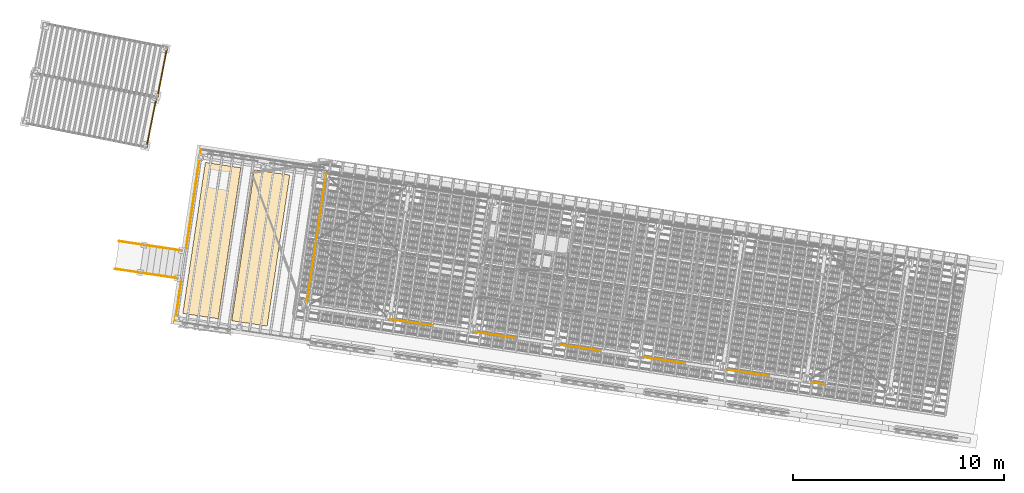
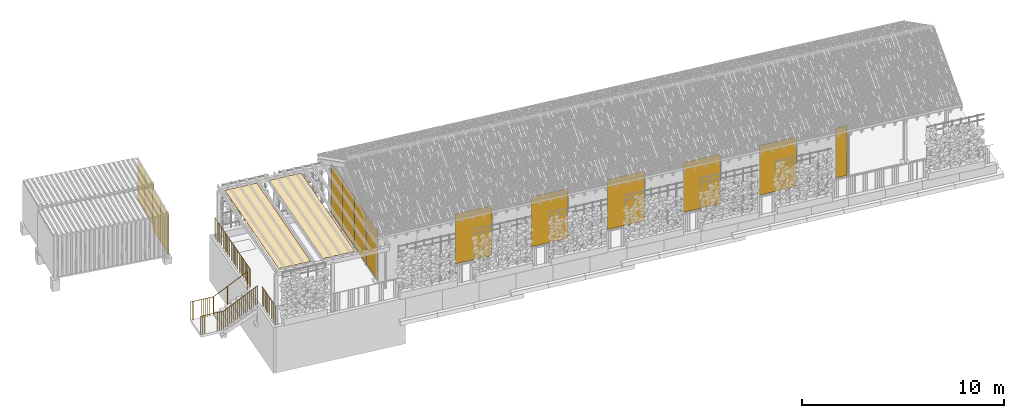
# One storey, part 123 of 128: 11 doors, 6 railings, 3 windows, 2 coverings, 5 elements without a shape of their own.
"""IFC4 building model written with IfcOpenShell, lengths in metres."""

import ifcopenshell
import ifcopenshell.guid

model = None  # the IFC model being written
_history = None  # IfcOwnerHistory: only IFC2X3 demands one
_inside = {}  # id of a spatial element -> (the spatial element, [elements in it])
_under = {}  # id of a project, library or spatial element -> (it, [spatial elements below it])
_declared = {}  # id of a project -> (the project, [libraries it declares])
_typed = {}  # id of a type object -> (the type object, [elements of that type])
_made_of = {}  # id of a material, layer set ... -> (it, [elements and type objects made of it])


def new_model(schema):
    """Start an empty IFC model of exactly this schema.

    Asked for "IFC4X3", IfcOpenShell would pick the latest addendum, in which some entities
    have other attributes; the version numbers below select the first issue.
    IFC2X3 requires an IfcOwnerHistory on every rooted entity: one is made here for all.
    """
    global model, _history
    if schema == "IFC4X3":
        model = ifcopenshell.file(schema_version=(4, 3, 0, 0))
    else:
        model = ifcopenshell.file(schema=schema)
    _inside.clear()
    _under.clear()
    _declared.clear()
    _typed.clear()
    _made_of.clear()
    _history = None
    if model.schema == "IFC2X3":
        org = make("IfcOrganization", Name="unknown")
        user = make(
            "IfcPersonAndOrganization",
            ThePerson=make("IfcPerson", FamilyName="unknown"),
            TheOrganization=org,
        )
        app = make(
            "IfcApplication",
            ApplicationDeveloper=org,
            Version="unknown",
            ApplicationFullName="unknown",
            ApplicationIdentifier="unknown",
        )
        _history = make(
            "IfcOwnerHistory",
            OwningUser=user,
            OwningApplication=app,
            ChangeAction="ADDED",
            CreationDate=0,
        )
    return model


def make(cls, **values):
    """One entity of the class cls with the attributes given. An attribute that is None is left unset."""
    return model.create_entity(
        cls, **{name: value for name, value in values.items() if value is not None}
    )


def rooted(cls, **values):
    """An entity with a GlobalId (a new one), such as an element, a storey or a relation."""
    return make(cls, GlobalId=ifcopenshell.guid.new(), OwnerHistory=_history, **values)


def si_unit(unit_type, name, prefix=None):
    """IfcSIUnit, for example si_unit("LENGTHUNIT", "METRE", prefix="MILLI")."""
    return make("IfcSIUnit", UnitType=unit_type, Prefix=prefix, Name=name)


def assignment(units):
    """IfcUnitAssignment: the units of a project."""
    return None if units is None else make("IfcUnitAssignment", Units=units)


def point(xyz):
    """IfcCartesianPoint."""
    return None if xyz is None else make("IfcCartesianPoint", Coordinates=xyz)


def direction(xyz):
    """IfcDirection."""
    return None if xyz is None else make("IfcDirection", DirectionRatios=xyz)


def frame(location, z_axis=None, x_axis=None):
    """IfcAxis2Placement3D, a coordinate frame: its origin and axes. An axis left out is left unset."""
    return make(
        "IfcAxis2Placement3D",
        Location=point(location),
        Axis=direction(z_axis),
        RefDirection=direction(x_axis),
    )


def origin_with_axes():
    """The frame at (0, 0, 0) with the z axis (0, 0, 1) and the x axis (1, 0, 0) written out."""
    return frame((0.0, 0.0, 0.0), z_axis=(0.0, 0.0, 1.0), x_axis=(1.0, 0.0, 0.0))


def place(relative_to, where):
    """IfcLocalPlacement: puts the frame where relative to a parent placement (None: the world)."""
    return make(
        "IfcLocalPlacement", PlacementRelTo=relative_to, RelativePlacement=where
    )


def context(
    kind, dimensions, precision=None, world=None, true_north=None, identifier=None
):
    """IfcGeometricRepresentationContext, for example the 3D "Model" context."""
    return make(
        "IfcGeometricRepresentationContext",
        ContextIdentifier=identifier,
        ContextType=kind,
        CoordinateSpaceDimension=dimensions,
        Precision=precision,
        WorldCoordinateSystem=world,
        TrueNorth=true_north,
    )


def subcontext(parent, identifier, kind, view, scale=None):
    """IfcGeometricRepresentationSubContext, for example "Body" below "Model"."""
    return make(
        "IfcGeometricRepresentationSubContext",
        ContextIdentifier=identifier,
        ContextType=kind,
        ParentContext=parent,
        TargetScale=scale,
        TargetView=view,
    )


def project(units=None, contexts=None):
    """IfcProject with its units and contexts."""
    return rooted(
        "IfcProject",
        Name="project",
        RepresentationContexts=contexts,
        UnitsInContext=assignment(units),
    )


def spatial(cls, under=None, at=None, **own):
    """A site, building, storey or space (cls), placed at a placement, below another one or the project."""
    s = rooted(cls, ObjectPlacement=at, **own)
    if under is not None:
        _under.setdefault(under.id(), (under, []))[1].append(s)
    return s


def polyline(points):
    """IfcPolyline through the points."""
    return make("IfcPolyline", Points=[point(p) for p in points])


def profile(cls, at=None, kind="AREA", **sizes):
    """A parametric profile (cls). Its sizes go by their IFC names, for example OverallWidth=200.0."""
    return make(cls, ProfileType=kind, Position=at, **sizes)


def circle(**sizes):
    """IfcCircleProfileDef."""
    return profile("IfcCircleProfileDef", **sizes)


def outline(outer, holes=None, kind="AREA"):
    """IfcArbitraryClosedProfileDef: a profile drawn as a closed curve; with holes, ...WithVoids."""
    if holes is None:
        return make("IfcArbitraryClosedProfileDef", ProfileType=kind, OuterCurve=outer)
    return make(
        "IfcArbitraryProfileDefWithVoids",
        ProfileType=kind,
        OuterCurve=outer,
        InnerCurves=holes,
    )


def extrude(swept, where, along, depth):
    """IfcExtrudedAreaSolid: the profile swept, set in the frame where, extruded along a direction by depth."""
    return make(
        "IfcExtrudedAreaSolid",
        SweptArea=swept,
        Position=where,
        ExtrudedDirection=direction(along),
        Depth=depth,
    )


def shape(context_of_items, identifier, shape_type, items):
    """IfcShapeRepresentation: the items that make up one representation, for example the "Body"."""
    return make(
        "IfcShapeRepresentation",
        ContextOfItems=context_of_items,
        RepresentationIdentifier=identifier,
        RepresentationType=shape_type,
        Items=items,
    )


def material(Name=None, Category=None):
    """IfcMaterial."""
    return make("IfcMaterial", Name=Name, Category=Category)


def made_of(thing, what):
    """Note that an element or type object is made of a material, layer set ...; save() writes the relation."""
    if what is not None:
        _made_of.setdefault(what.id(), (what, []))[1].append(thing)
    return thing


def element(
    cls,
    number,
    at=None,
    inside=None,
    cuts=None,
    type_object=None,
    material=None,
    context=None,
    identifier="Body",
    shape_type=None,
    held_by="IfcProductDefinitionShape",
    body=None,
    shapes=None,
    **own,
):
    """One element of the class cls, such as IfcWall. Its Tag is "e" and its number.

    at: its placement. inside: the storey or other place that contains it. cuts: it is an
    opening in that element (IfcRelVoidsElement). A single representation is given by context,
    identifier, shape_type and body (its items); several are given by shapes. held_by: the class
    of the entity that holds the representations. save() writes the other relations.
    """
    e = rooted(cls, Tag="e%d" % number, ObjectPlacement=at, **own)
    if body is not None:
        shapes = [shape(context, identifier, shape_type, body)]
    if shapes is not None:
        e.Representation = make(held_by, Representations=shapes)
    if inside is not None:
        _inside.setdefault(inside.id(), (inside, []))[1].append(e)
    if cuts is not None:
        rooted(
            "IfcRelVoidsElement", RelatingBuildingElement=cuts, RelatedOpeningElement=e
        )
    if type_object is not None:
        _typed.setdefault(type_object.id(), (type_object, []))[1].append(e)
    return made_of(e, material)


def aggregate(whole, parts):
    """IfcRelAggregates: a whole, such as a stair, and the parts it consists of."""
    return rooted("IfcRelAggregates", RelatingObject=whole, RelatedObjects=parts)


def save(model, path):
    """Write the relations noted so far, then the file.

    IfcRelAggregates (storeys below a building ...), IfcRelContainedInSpatialStructure (elements
    in a storey), IfcRelDefinesByType, IfcRelAssociatesMaterial and IfcRelDeclares: one each for
    every whole, place, type object, material and project.
    """
    for whole, parts in _under.values():
        aggregate(whole, parts)
    for where, things in _inside.values():
        rooted(
            "IfcRelContainedInSpatialStructure",
            RelatedElements=things,
            RelatingStructure=where,
        )
    for kind, things in _typed.values():
        rooted("IfcRelDefinesByType", RelatedObjects=things, RelatingType=kind)
    for what, things in _made_of.values():
        rooted("IfcRelAssociatesMaterial", RelatedObjects=things, RelatingMaterial=what)
    for by, libraries in _declared.values():
        rooted("IfcRelDeclares", RelatingContext=by, RelatedDefinitions=libraries)
    model.write(path)


model = new_model("IFC4")

# Units and contexts
model_context = context("Model", 3, precision=1e-05, world=origin_with_axes(), true_north=direction((0.0, 1.0)))
body_context = subcontext(model_context, "Body", "Model", "MODEL_VIEW")
ifc_project = project(units=[si_unit("VOLUMEUNIT", "CUBIC_METRE"), si_unit("LENGTHUNIT", "METRE"), si_unit("AREAUNIT", "SQUARE_METRE")], contexts=[model_context])

# Site, building, storey
site_placement = place(None, origin_with_axes())
site = spatial("IfcSite", under=ifc_project, at=site_placement, Name="Lares · Rua das Mercês · artigo 4771")
building_placement = place(site_placement, frame((15.0, 9.7, 13.9), z_axis=(0.0, 0.0, 1.0), x_axis=(0.989015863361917, -0.147809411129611, 0.0)))
building = spatial("IfcBuilding", under=site, at=building_placement, Name="Casa Sobreposta")
storey_placement = place(building_placement, origin_with_axes())
storey = spatial("IfcBuildingStorey", under=building, at=storey_placement, Name="00 · Habitação e estacionamento", Elevation=13.9)

# Doors
ifc_material_1 = material(Name="Vidro / Normalglas", Category="glass")
door_1_placement = place(storey_placement, frame((0.0, 0.0, 0.025), z_axis=(0.0, 0.0, 1.0), x_axis=(1.0, 0.0, 0.0)))
element("IfcDoor", 1, at=door_1_placement, inside=storey, material=ifc_material_1, Name="Folha de correr sul 2", OperationType="SLIDING_TO_LEFT", OverallHeight=3.0, OverallWidth=1.97133333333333, PredefinedType="DOOR", context=body_context, shape_type="SweptSolid", body=[
    extrude(outline(polyline([(6.039, 0.004), (6.039, -0.004), (4.06766666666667, -0.004), (4.06766666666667, 0.004), (6.039, 0.004)])), origin_with_axes(), (0.0, 0.0, 1.0), 3.0),
])
door_2_placement = place(storey_placement, frame((0.0, 0.0, 0.025), z_axis=(0.0, 0.0, 1.0), x_axis=(1.0, 0.0, 0.0)))
element("IfcDoor", 2, at=door_2_placement, inside=storey, material=ifc_material_1, Name="Folha de correr sul 4", OperationType="SLIDING_TO_LEFT", OverallHeight=3.0, OverallWidth=1.97133333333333, PredefinedType="DOOR", context=body_context, shape_type="SweptSolid", body=[
    extrude(outline(polyline([(10.0816666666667, 0.004), (10.0816666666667, -0.004), (8.11033333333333, -0.004), (8.11033333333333, 0.004), (10.0816666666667, 0.004)])), origin_with_axes(), (0.0, 0.0, 1.0), 3.0),
])
door_3_placement = place(storey_placement, frame((0.0, 0.0, 0.025), z_axis=(0.0, 0.0, 1.0), x_axis=(1.0, 0.0, 0.0)))
element("IfcDoor", 3, at=door_3_placement, inside=storey, material=ifc_material_1, Name="Folha de correr sul 6", OperationType="SLIDING_TO_LEFT", OverallHeight=3.0, OverallWidth=1.97133333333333, PredefinedType="DOOR", context=body_context, shape_type="SweptSolid", body=[
    extrude(outline(polyline([(14.1243333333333, 0.004), (14.1243333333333, -0.004), (12.153, -0.004), (12.153, 0.004), (14.1243333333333, 0.004)])), origin_with_axes(), (0.0, 0.0, 1.0), 3.0),
])
door_4_placement = place(storey_placement, frame((0.0, 0.0, 0.025), z_axis=(0.0, 0.0, 1.0), x_axis=(1.0, 0.0, 0.0)))
element("IfcDoor", 4, at=door_4_placement, inside=storey, material=ifc_material_1, Name="Folha de correr sul 8", OperationType="SLIDING_TO_LEFT", OverallHeight=3.0, OverallWidth=1.97133333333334, PredefinedType="DOOR", context=body_context, shape_type="SweptSolid", body=[
    extrude(outline(polyline([(18.167, 0.004), (18.167, -0.004), (16.1956666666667, -0.004), (16.1956666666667, 0.004), (18.167, 0.004)])), origin_with_axes(), (0.0, 0.0, 1.0), 3.0),
])
door_5_placement = place(storey_placement, frame((0.0, 0.0, 0.025), z_axis=(0.0, 0.0, 1.0), x_axis=(1.0, 0.0, 0.0)))
element("IfcDoor", 5, at=door_5_placement, inside=storey, material=ifc_material_1, Name="Folha de correr sul 10", OperationType="SLIDING_TO_LEFT", OverallHeight=3.0, OverallWidth=1.97133333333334, PredefinedType="DOOR", context=body_context, shape_type="SweptSolid", body=[
    extrude(outline(polyline([(22.2096666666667, 0.004), (22.2096666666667, -0.004), (20.2383333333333, -0.004), (20.2383333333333, 0.004), (22.2096666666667, 0.004)])), origin_with_axes(), (0.0, 0.0, 1.0), 3.0),
])
door_6_placement = place(storey_placement, frame((0.0, 0.0, 0.025), z_axis=(0.0, 0.0, 1.0), x_axis=(1.0, 0.0, 0.0)))
element("IfcDoor", 6, at=door_6_placement, inside=storey, material=ifc_material_1, Name="Folha de correr sul 12", OperationType="SLIDING_TO_LEFT", OverallHeight=3.0, OverallWidth=0.614000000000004, PredefinedType="DOOR", context=body_context, shape_type="SweptSolid", body=[
    extrude(outline(polyline([(24.895, 0.004), (24.895, -0.004), (24.281, -0.004), (24.281, 0.004), (24.895, 0.004)])), origin_with_axes(), (0.0, 0.0, 1.0), 3.0),
])

# Windows
window_1_placement = place(storey_placement, frame((0.0, 0.0, 0.025), z_axis=(0.0, 0.0, 1.0), x_axis=(1.0, 0.0, 0.0)))
element("IfcWindow", 7, at=window_1_placement, inside=storey, material=ifc_material_1, Name="Fachada poente integralmente envidraçada · módulo 1", OverallHeight=3.0, OverallWidth=1.55, PartitioningType="SINGLE_PANEL", PredefinedType="WINDOW", context=body_context, shape_type="SweptSolid", body=[
    extrude(outline(polyline([(-0.004, 1.575), (0.004, 1.575), (0.004, 0.025), (-0.004, 0.025), (-0.004, 1.575)])), origin_with_axes(), (0.0, 0.0, 1.0), 3.0),
])
window_2_placement = place(storey_placement, frame((0.0, 0.0, 0.025), z_axis=(0.0, 0.0, 1.0), x_axis=(1.0, 0.0, 0.0)))
element("IfcWindow", 8, at=window_2_placement, inside=storey, material=ifc_material_1, Name="Fachada poente integralmente envidraçada · módulo 2", OverallHeight=3.0, OverallWidth=1.55, PartitioningType="SINGLE_PANEL", PredefinedType="WINDOW", context=body_context, shape_type="SweptSolid", body=[
    extrude(outline(polyline([(-0.004, 3.175), (0.004, 3.175), (0.004, 1.625), (-0.004, 1.625), (-0.004, 3.175)])), origin_with_axes(), (0.0, 0.0, 1.0), 3.0),
])
window_3_placement = place(storey_placement, frame((0.0, 0.0, 0.025), z_axis=(0.0, 0.0, 1.0), x_axis=(1.0, 0.0, 0.0)))
element("IfcWindow", 9, at=window_3_placement, inside=storey, material=ifc_material_1, Name="Fachada poente integralmente envidraçada · módulo 3", OverallHeight=3.0, OverallWidth=1.55, PartitioningType="SINGLE_PANEL", PredefinedType="WINDOW", context=body_context, shape_type="SweptSolid", body=[
    extrude(outline(polyline([(-0.004, 4.775), (0.004, 4.775), (0.004, 3.225), (-0.004, 3.225), (-0.004, 4.775)])), origin_with_axes(), (0.0, 0.0, 1.0), 3.0),
])

# Door
door_7_placement = place(storey_placement, frame((0.0, 0.0, 0.025), z_axis=(0.0, 0.0, 1.0), x_axis=(1.0, 0.0, 0.0)))
element("IfcDoor", 10, at=door_7_placement, inside=storey, material=ifc_material_1, Name="Fachada poente integralmente envidraçada · módulo 4", OperationType="SLIDING_TO_LEFT", OverallHeight=3.0, OverallWidth=1.55, PredefinedType="DOOR", context=body_context, shape_type="SweptSolid", body=[
    extrude(outline(polyline([(-0.004, 6.375), (0.004, 6.375), (0.004, 4.825), (-0.004, 4.825), (-0.004, 6.375)])), origin_with_axes(), (0.0, 0.0, 1.0), 3.0),
])

# Assembly, doors
assembly_1_placement = place(storey_placement, frame((-14.4335953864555, 9.04888612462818, 0.0), z_axis=(0.0, 0.0, 1.0), x_axis=(0.999032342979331, -0.0439815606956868, 0.0)))
assembly_1 = element("IfcElementAssembly", 11, at=assembly_1_placement, inside=storey, Name="Contentor existente 1 · 6 m", ObjectType="EXISTING_SHIPPING_CONTAINER", PredefinedType="USERDEFINED")
ifc_material_2 = material(Name="Contentor · pintura 1", Category="steel")
door_8_placement = place(assembly_1_placement, frame((0.0, 0.0, -0.163141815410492), z_axis=(0.0, 0.0, 1.0), x_axis=(1.0, 0.0, 0.0)))
door_8 = element("IfcDoor", 12, at=door_8_placement, material=ifc_material_2, Name="Contentor · porta dupla", OperationType="SINGLE_SWING_LEFT", OverallHeight=2.39, OverallWidth=1.17, PredefinedType="DOOR", context=body_context, shape_type="SweptSolid", body=[
    extrude(outline(polyline([(5.955, 1.21), (6.005, 1.21), (6.005, 0.04), (5.955, 0.04), (5.955, 1.21)])), origin_with_axes(), (0.0, 0.0, 1.0), 2.39),
])
door_9_placement = place(assembly_1_placement, frame((0.0, 0.0, -0.163141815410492), z_axis=(0.0, 0.0, 1.0), x_axis=(1.0, 0.0, 0.0)))
door_9 = element("IfcDoor", 13, at=door_9_placement, material=ifc_material_2, Name="Contentor · porta dupla", OperationType="SINGLE_SWING_LEFT", OverallHeight=2.39, OverallWidth=1.17, PredefinedType="DOOR", context=body_context, shape_type="SweptSolid", body=[
    extrude(outline(polyline([(5.955, 2.39), (6.005, 2.39), (6.005, 1.22), (5.955, 1.22), (5.955, 2.39)])), origin_with_axes(), (0.0, 0.0, 1.0), 2.39),
])
aggregate(assembly_1, [door_8, door_9])

assembly_2_placement = place(storey_placement, frame((-14.5932944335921, 6.63122214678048, 0.0), z_axis=(0.0, 0.0, 1.0), x_axis=(0.998832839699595, -0.0483007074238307, 0.0)))
assembly_2 = element("IfcElementAssembly", 14, at=assembly_2_placement, inside=storey, Name="Contentor existente 2 · 6 m", ObjectType="EXISTING_SHIPPING_CONTAINER", PredefinedType="USERDEFINED")
ifc_material_3 = material(Name="Contentor · pintura 2", Category="steel")
door_10_placement = place(assembly_2_placement, frame((0.0, 0.0, -0.318751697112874), z_axis=(0.0, 0.0, 1.0), x_axis=(1.0, 0.0, 0.0)))
door_10 = element("IfcDoor", 15, at=door_10_placement, material=ifc_material_3, Name="Contentor · porta dupla", OperationType="SINGLE_SWING_LEFT", OverallHeight=2.39, OverallWidth=1.17, PredefinedType="DOOR", context=body_context, shape_type="SweptSolid", body=[
    extrude(outline(polyline([(5.955, 1.21), (6.005, 1.21), (6.005, 0.04), (5.955, 0.04), (5.955, 1.21)])), origin_with_axes(), (0.0, 0.0, 1.0), 2.39),
])
door_11_placement = place(assembly_2_placement, frame((0.0, 0.0, -0.318751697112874), z_axis=(0.0, 0.0, 1.0), x_axis=(1.0, 0.0, 0.0)))
door_11 = element("IfcDoor", 16, at=door_11_placement, material=ifc_material_3, Name="Contentor · porta dupla", OperationType="SINGLE_SWING_LEFT", OverallHeight=2.39, OverallWidth=1.17, PredefinedType="DOOR", context=body_context, shape_type="SweptSolid", body=[
    extrude(outline(polyline([(5.955, 2.39), (6.005, 2.39), (6.005, 1.22), (5.955, 1.22), (5.955, 2.39)])), origin_with_axes(), (0.0, 0.0, 1.0), 2.39),
])
aggregate(assembly_2, [door_10, door_11])

# Assembly, railings
assembly_3_placement = place(storey_placement, origin_with_axes())
assembly_3 = element("IfcElementAssembly", 17, at=assembly_3_placement, inside=storey, Name="Pódio · terraço, casa térrea e cisterna", ObjectType="CISTERN_PODIUM", PredefinedType="USERDEFINED")
ifc_material_4 = material(Name="Aço pintado / Stahl lackiert", Category="steel")
railing_1_placement = place(assembly_3_placement, origin_with_axes())
railing_1 = element("IfcRailing", 18, at=railing_1_placement, material=ifc_material_4, Name="Pódio · guarda poente sul", PredefinedType="GUARDRAIL", context=body_context, shape_type="SweptSolid", body=[
    extrude(circle(Radius=0.015), frame((-6.05, -1.55, 1.06), z_axis=(0.0, 1.0, 0.0), x_axis=(1.0, 0.0, 0.0)), (0.0, 0.0, 1.0), 1.85),
    extrude(circle(Radius=0.0175), frame((-6.05, -1.55, -0.04), z_axis=(0.0, 0.0, 1.0), x_axis=(1.0, 0.0, 0.0)), (0.0, 0.0, 1.0), 1.1),
    extrude(circle(Radius=0.006), frame((-6.05, -1.44117647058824, -0.04), z_axis=(0.0, 0.0, 1.0), x_axis=(1.0, 0.0, 0.0)), (0.0, 0.0, 1.0), 1.1),
    extrude(circle(Radius=0.006), frame((-6.05, -1.33235294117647, -0.04), z_axis=(0.0, 0.0, 1.0), x_axis=(1.0, 0.0, 0.0)), (0.0, 0.0, 1.0), 1.1),
    extrude(circle(Radius=0.006), frame((-6.05, -1.22352941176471, -0.04), z_axis=(0.0, 0.0, 1.0), x_axis=(1.0, 0.0, 0.0)), (0.0, 0.0, 1.0), 1.1),
    extrude(circle(Radius=0.006), frame((-6.05, -1.11470588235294, -0.04), z_axis=(0.0, 0.0, 1.0), x_axis=(1.0, 0.0, 0.0)), (0.0, 0.0, 1.0), 1.1),
    extrude(circle(Radius=0.006), frame((-6.05, -1.00588235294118, -0.04), z_axis=(0.0, 0.0, 1.0), x_axis=(1.0, 0.0, 0.0)), (0.0, 0.0, 1.0), 1.1),
    extrude(circle(Radius=0.006), frame((-6.05, -0.897058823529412, -0.04), z_axis=(0.0, 0.0, 1.0), x_axis=(1.0, 0.0, 0.0)), (0.0, 0.0, 1.0), 1.1),
    extrude(circle(Radius=0.006), frame((-6.05, -0.788235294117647, -0.04), z_axis=(0.0, 0.0, 1.0), x_axis=(1.0, 0.0, 0.0)), (0.0, 0.0, 1.0), 1.1),
    extrude(circle(Radius=0.006), frame((-6.05, -0.679411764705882, -0.04), z_axis=(0.0, 0.0, 1.0), x_axis=(1.0, 0.0, 0.0)), (0.0, 0.0, 1.0), 1.1),
    extrude(circle(Radius=0.006), frame((-6.05, -0.570588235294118, -0.04), z_axis=(0.0, 0.0, 1.0), x_axis=(1.0, 0.0, 0.0)), (0.0, 0.0, 1.0), 1.1),
    extrude(circle(Radius=0.0175), frame((-6.05, -0.461764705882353, -0.04), z_axis=(0.0, 0.0, 1.0), x_axis=(1.0, 0.0, 0.0)), (0.0, 0.0, 1.0), 1.1),
    extrude(circle(Radius=0.006), frame((-6.05, -0.352941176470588, -0.04), z_axis=(0.0, 0.0, 1.0), x_axis=(1.0, 0.0, 0.0)), (0.0, 0.0, 1.0), 1.1),
    extrude(circle(Radius=0.006), frame((-6.05, -0.244117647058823, -0.04), z_axis=(0.0, 0.0, 1.0), x_axis=(1.0, 0.0, 0.0)), (0.0, 0.0, 1.0), 1.1),
    extrude(circle(Radius=0.006), frame((-6.05, -0.135294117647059, -0.04), z_axis=(0.0, 0.0, 1.0), x_axis=(1.0, 0.0, 0.0)), (0.0, 0.0, 1.0), 1.1),
    extrude(circle(Radius=0.006), frame((-6.05, -0.0264705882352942, -0.04), z_axis=(0.0, 0.0, 1.0), x_axis=(1.0, 0.0, 0.0)), (0.0, 0.0, 1.0), 1.1),
    extrude(circle(Radius=0.006), frame((-6.05, 0.0823529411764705, -0.04), z_axis=(0.0, 0.0, 1.0), x_axis=(1.0, 0.0, 0.0)), (0.0, 0.0, 1.0), 1.1),
    extrude(circle(Radius=0.006), frame((-6.05, 0.191176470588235, -0.04), z_axis=(0.0, 0.0, 1.0), x_axis=(1.0, 0.0, 0.0)), (0.0, 0.0, 1.0), 1.1),
    extrude(circle(Radius=0.006), frame((-6.05, 0.3, -0.04), z_axis=(0.0, 0.0, 1.0), x_axis=(1.0, 0.0, 0.0)), (0.0, 0.0, 1.0), 1.1),
])
railing_2_placement = place(assembly_3_placement, origin_with_axes())
railing_2 = element("IfcRailing", 19, at=railing_2_placement, material=ifc_material_4, Name="Pódio · guarda poente norte", PredefinedType="GUARDRAIL", context=body_context, shape_type="SweptSolid", body=[
    extrude(circle(Radius=0.015), frame((-6.05, 1.9, 1.06), z_axis=(0.0, 1.0, 0.0), x_axis=(1.0, 0.0, 0.0)), (0.0, 0.0, 1.0), 4.75),
    extrude(circle(Radius=0.0175), frame((-6.05, 1.9, -0.04), z_axis=(0.0, 0.0, 1.0), x_axis=(1.0, 0.0, 0.0)), (0.0, 0.0, 1.0), 1.1),
    extrude(circle(Radius=0.006), frame((-6.05, 2.00795454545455, -0.04), z_axis=(0.0, 0.0, 1.0), x_axis=(1.0, 0.0, 0.0)), (0.0, 0.0, 1.0), 1.1),
    extrude(circle(Radius=0.006), frame((-6.05, 2.11590909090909, -0.04), z_axis=(0.0, 0.0, 1.0), x_axis=(1.0, 0.0, 0.0)), (0.0, 0.0, 1.0), 1.1),
    extrude(circle(Radius=0.006), frame((-6.05, 2.22386363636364, -0.04), z_axis=(0.0, 0.0, 1.0), x_axis=(1.0, 0.0, 0.0)), (0.0, 0.0, 1.0), 1.1),
    extrude(circle(Radius=0.006), frame((-6.05, 2.33181818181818, -0.04), z_axis=(0.0, 0.0, 1.0), x_axis=(1.0, 0.0, 0.0)), (0.0, 0.0, 1.0), 1.1),
    extrude(circle(Radius=0.006), frame((-6.05, 2.43977272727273, -0.04), z_axis=(0.0, 0.0, 1.0), x_axis=(1.0, 0.0, 0.0)), (0.0, 0.0, 1.0), 1.1),
    extrude(circle(Radius=0.006), frame((-6.05, 2.54772727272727, -0.04), z_axis=(0.0, 0.0, 1.0), x_axis=(1.0, 0.0, 0.0)), (0.0, 0.0, 1.0), 1.1),
    extrude(circle(Radius=0.006), frame((-6.05, 2.65568181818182, -0.04), z_axis=(0.0, 0.0, 1.0), x_axis=(1.0, 0.0, 0.0)), (0.0, 0.0, 1.0), 1.1),
    extrude(circle(Radius=0.006), frame((-6.05, 2.76363636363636, -0.04), z_axis=(0.0, 0.0, 1.0), x_axis=(1.0, 0.0, 0.0)), (0.0, 0.0, 1.0), 1.1),
    extrude(circle(Radius=0.006), frame((-6.05, 2.87159090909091, -0.04), z_axis=(0.0, 0.0, 1.0), x_axis=(1.0, 0.0, 0.0)), (0.0, 0.0, 1.0), 1.1),
    extrude(circle(Radius=0.0175), frame((-6.05, 2.97954545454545, -0.04), z_axis=(0.0, 0.0, 1.0), x_axis=(1.0, 0.0, 0.0)), (0.0, 0.0, 1.0), 1.1),
    extrude(circle(Radius=0.006), frame((-6.05, 3.0875, -0.04), z_axis=(0.0, 0.0, 1.0), x_axis=(1.0, 0.0, 0.0)), (0.0, 0.0, 1.0), 1.1),
    extrude(circle(Radius=0.006), frame((-6.05, 3.19545454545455, -0.04), z_axis=(0.0, 0.0, 1.0), x_axis=(1.0, 0.0, 0.0)), (0.0, 0.0, 1.0), 1.1),
    extrude(circle(Radius=0.006), frame((-6.05, 3.30340909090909, -0.04), z_axis=(0.0, 0.0, 1.0), x_axis=(1.0, 0.0, 0.0)), (0.0, 0.0, 1.0), 1.1),
    extrude(circle(Radius=0.006), frame((-6.05, 3.41136363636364, -0.04), z_axis=(0.0, 0.0, 1.0), x_axis=(1.0, 0.0, 0.0)), (0.0, 0.0, 1.0), 1.1),
    extrude(circle(Radius=0.006), frame((-6.05, 3.51931818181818, -0.04), z_axis=(0.0, 0.0, 1.0), x_axis=(1.0, 0.0, 0.0)), (0.0, 0.0, 1.0), 1.1),
    extrude(circle(Radius=0.006), frame((-6.05, 3.62727272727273, -0.04), z_axis=(0.0, 0.0, 1.0), x_axis=(1.0, 0.0, 0.0)), (0.0, 0.0, 1.0), 1.1),
    extrude(circle(Radius=0.006), frame((-6.05, 3.73522727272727, -0.04), z_axis=(0.0, 0.0, 1.0), x_axis=(1.0, 0.0, 0.0)), (0.0, 0.0, 1.0), 1.1),
    extrude(circle(Radius=0.006), frame((-6.05, 3.84318181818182, -0.04), z_axis=(0.0, 0.0, 1.0), x_axis=(1.0, 0.0, 0.0)), (0.0, 0.0, 1.0), 1.1),
    extrude(circle(Radius=0.006), frame((-6.05, 3.95113636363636, -0.04), z_axis=(0.0, 0.0, 1.0), x_axis=(1.0, 0.0, 0.0)), (0.0, 0.0, 1.0), 1.1),
    extrude(circle(Radius=0.0175), frame((-6.05, 4.05909090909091, -0.04), z_axis=(0.0, 0.0, 1.0), x_axis=(1.0, 0.0, 0.0)), (0.0, 0.0, 1.0), 1.1),
    extrude(circle(Radius=0.006), frame((-6.05, 4.16704545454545, -0.04), z_axis=(0.0, 0.0, 1.0), x_axis=(1.0, 0.0, 0.0)), (0.0, 0.0, 1.0), 1.1),
    extrude(circle(Radius=0.006), frame((-6.05, 4.275, -0.04), z_axis=(0.0, 0.0, 1.0), x_axis=(1.0, 0.0, 0.0)), (0.0, 0.0, 1.0), 1.1),
    extrude(circle(Radius=0.006), frame((-6.05, 4.38295454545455, -0.04), z_axis=(0.0, 0.0, 1.0), x_axis=(1.0, 0.0, 0.0)), (0.0, 0.0, 1.0), 1.1),
    extrude(circle(Radius=0.006), frame((-6.05, 4.49090909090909, -0.04), z_axis=(0.0, 0.0, 1.0), x_axis=(1.0, 0.0, 0.0)), (0.0, 0.0, 1.0), 1.1),
    extrude(circle(Radius=0.006), frame((-6.05, 4.59886363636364, -0.04), z_axis=(0.0, 0.0, 1.0), x_axis=(1.0, 0.0, 0.0)), (0.0, 0.0, 1.0), 1.1),
    extrude(circle(Radius=0.006), frame((-6.05, 4.70681818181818, -0.04), z_axis=(0.0, 0.0, 1.0), x_axis=(1.0, 0.0, 0.0)), (0.0, 0.0, 1.0), 1.1),
    extrude(circle(Radius=0.006), frame((-6.05, 4.81477272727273, -0.04), z_axis=(0.0, 0.0, 1.0), x_axis=(1.0, 0.0, 0.0)), (0.0, 0.0, 1.0), 1.1),
    extrude(circle(Radius=0.006), frame((-6.05, 4.92272727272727, -0.04), z_axis=(0.0, 0.0, 1.0), x_axis=(1.0, 0.0, 0.0)), (0.0, 0.0, 1.0), 1.1),
    extrude(circle(Radius=0.006), frame((-6.05, 5.03068181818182, -0.04), z_axis=(0.0, 0.0, 1.0), x_axis=(1.0, 0.0, 0.0)), (0.0, 0.0, 1.0), 1.1),
    extrude(circle(Radius=0.0175), frame((-6.05, 5.13863636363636, -0.04), z_axis=(0.0, 0.0, 1.0), x_axis=(1.0, 0.0, 0.0)), (0.0, 0.0, 1.0), 1.1),
    extrude(circle(Radius=0.006), frame((-6.05, 5.24659090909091, -0.04), z_axis=(0.0, 0.0, 1.0), x_axis=(1.0, 0.0, 0.0)), (0.0, 0.0, 1.0), 1.1),
    extrude(circle(Radius=0.006), frame((-6.05, 5.35454545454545, -0.04), z_axis=(0.0, 0.0, 1.0), x_axis=(1.0, 0.0, 0.0)), (0.0, 0.0, 1.0), 1.1),
    extrude(circle(Radius=0.006), frame((-6.05, 5.4625, -0.04), z_axis=(0.0, 0.0, 1.0), x_axis=(1.0, 0.0, 0.0)), (0.0, 0.0, 1.0), 1.1),
    extrude(circle(Radius=0.006), frame((-6.05, 5.57045454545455, -0.04), z_axis=(0.0, 0.0, 1.0), x_axis=(1.0, 0.0, 0.0)), (0.0, 0.0, 1.0), 1.1),
    extrude(circle(Radius=0.006), frame((-6.05, 5.67840909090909, -0.04), z_axis=(0.0, 0.0, 1.0), x_axis=(1.0, 0.0, 0.0)), (0.0, 0.0, 1.0), 1.1),
    extrude(circle(Radius=0.006), frame((-6.05, 5.78636363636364, -0.04), z_axis=(0.0, 0.0, 1.0), x_axis=(1.0, 0.0, 0.0)), (0.0, 0.0, 1.0), 1.1),
    extrude(circle(Radius=0.006), frame((-6.05, 5.89431818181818, -0.04), z_axis=(0.0, 0.0, 1.0), x_axis=(1.0, 0.0, 0.0)), (0.0, 0.0, 1.0), 1.1),
    extrude(circle(Radius=0.006), frame((-6.05, 6.00227272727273, -0.04), z_axis=(0.0, 0.0, 1.0), x_axis=(1.0, 0.0, 0.0)), (0.0, 0.0, 1.0), 1.1),
    extrude(circle(Radius=0.006), frame((-6.05, 6.11022727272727, -0.04), z_axis=(0.0, 0.0, 1.0), x_axis=(1.0, 0.0, 0.0)), (0.0, 0.0, 1.0), 1.1),
    extrude(circle(Radius=0.0175), frame((-6.05, 6.21818181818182, -0.04), z_axis=(0.0, 0.0, 1.0), x_axis=(1.0, 0.0, 0.0)), (0.0, 0.0, 1.0), 1.1),
    extrude(circle(Radius=0.006), frame((-6.05, 6.32613636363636, -0.04), z_axis=(0.0, 0.0, 1.0), x_axis=(1.0, 0.0, 0.0)), (0.0, 0.0, 1.0), 1.1),
    extrude(circle(Radius=0.006), frame((-6.05, 6.43409090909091, -0.04), z_axis=(0.0, 0.0, 1.0), x_axis=(1.0, 0.0, 0.0)), (0.0, 0.0, 1.0), 1.1),
    extrude(circle(Radius=0.006), frame((-6.05, 6.54204545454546, -0.04), z_axis=(0.0, 0.0, 1.0), x_axis=(1.0, 0.0, 0.0)), (0.0, 0.0, 1.0), 1.1),
    extrude(circle(Radius=0.006), frame((-6.05, 6.65, -0.04), z_axis=(0.0, 0.0, 1.0), x_axis=(1.0, 0.0, 0.0)), (0.0, 0.0, 1.0), 1.1),
])
aggregate(assembly_3, [railing_1, railing_2])

# Stair, railings
stair_placement = place(storey_placement, origin_with_axes())
stair = element("IfcStair", 20, at=stair_placement, inside=storey, Name="Jardim · escada pela fachada poente", PredefinedType="STRAIGHT_RUN_STAIR")
railing_3_placement = place(stair_placement, origin_with_axes())
railing_3 = element("IfcRailing", 21, at=railing_3_placement, material=ifc_material_4, Name="Jardim · corrimão poente", PredefinedType="GUARDRAIL", context=body_context, shape_type="SweptSolid", body=[
    extrude(circle(Radius=0.015), frame((-6.25, 0.435, 1.06), z_axis=(-0.861687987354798, 0.0, -0.50743848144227), x_axis=(0.0, 1.0, 0.0)), (0.0, 0.0, 1.0), 2.08892316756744),
    extrude(circle(Radius=0.0175), frame((-6.25, 0.435, -0.04), z_axis=(0.0, 0.0, 1.0), x_axis=(1.0, 0.0, 0.0)), (0.0, 0.0, 1.0), 1.1),
    extrude(circle(Radius=0.006), frame((-6.35588235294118, 0.435, -0.102352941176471), z_axis=(0.0, 0.0, 1.0), x_axis=(1.0, 0.0, 0.0)), (0.0, 0.0, 1.0), 1.1),
    extrude(circle(Radius=0.006), frame((-6.46176470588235, 0.435, -0.164705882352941), z_axis=(0.0, 0.0, 1.0), x_axis=(1.0, 0.0, 0.0)), (0.0, 0.0, 1.0), 1.1),
    extrude(circle(Radius=0.006), frame((-6.56764705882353, 0.435, -0.227058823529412), z_axis=(0.0, 0.0, 1.0), x_axis=(1.0, 0.0, 0.0)), (0.0, 0.0, 1.0), 1.1),
    extrude(circle(Radius=0.006), frame((-6.67352941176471, 0.435, -0.289411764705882), z_axis=(0.0, 0.0, 1.0), x_axis=(1.0, 0.0, 0.0)), (0.0, 0.0, 1.0), 1.1),
    extrude(circle(Radius=0.006), frame((-6.77941176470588, 0.435, -0.351764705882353), z_axis=(0.0, 0.0, 1.0), x_axis=(1.0, 0.0, 0.0)), (0.0, 0.0, 1.0), 1.1),
    extrude(circle(Radius=0.006), frame((-6.88529411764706, 0.435, -0.414117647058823), z_axis=(0.0, 0.0, 1.0), x_axis=(1.0, 0.0, 0.0)), (0.0, 0.0, 1.0), 1.1),
    extrude(circle(Radius=0.006), frame((-6.99117647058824, 0.435, -0.476470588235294), z_axis=(0.0, 0.0, 1.0), x_axis=(1.0, 0.0, 0.0)), (0.0, 0.0, 1.0), 1.1),
    extrude(circle(Radius=0.006), frame((-7.09705882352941, 0.435, -0.538823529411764), z_axis=(0.0, 0.0, 1.0), x_axis=(1.0, 0.0, 0.0)), (0.0, 0.0, 1.0), 1.1),
    extrude(circle(Radius=0.006), frame((-7.20294117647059, 0.435, -0.601176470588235), z_axis=(0.0, 0.0, 1.0), x_axis=(1.0, 0.0, 0.0)), (0.0, 0.0, 1.0), 1.1),
    extrude(circle(Radius=0.0175), frame((-7.30882352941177, 0.435, -0.663529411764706), z_axis=(0.0, 0.0, 1.0), x_axis=(1.0, 0.0, 0.0)), (0.0, 0.0, 1.0), 1.1),
    extrude(circle(Radius=0.006), frame((-7.41470588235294, 0.435, -0.725882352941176), z_axis=(0.0, 0.0, 1.0), x_axis=(1.0, 0.0, 0.0)), (0.0, 0.0, 1.0), 1.1),
    extrude(circle(Radius=0.006), frame((-7.52058823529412, 0.435, -0.788235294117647), z_axis=(0.0, 0.0, 1.0), x_axis=(1.0, 0.0, 0.0)), (0.0, 0.0, 1.0), 1.1),
    extrude(circle(Radius=0.006), frame((-7.62647058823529, 0.435, -0.850588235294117), z_axis=(0.0, 0.0, 1.0), x_axis=(1.0, 0.0, 0.0)), (0.0, 0.0, 1.0), 1.1),
    extrude(circle(Radius=0.006), frame((-7.73235294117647, 0.435, -0.912941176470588), z_axis=(0.0, 0.0, 1.0), x_axis=(1.0, 0.0, 0.0)), (0.0, 0.0, 1.0), 1.1),
    extrude(circle(Radius=0.006), frame((-7.83823529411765, 0.435, -0.975294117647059), z_axis=(0.0, 0.0, 1.0), x_axis=(1.0, 0.0, 0.0)), (0.0, 0.0, 1.0), 1.1),
    extrude(circle(Radius=0.006), frame((-7.94411764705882, 0.435, -1.03764705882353), z_axis=(0.0, 0.0, 1.0), x_axis=(1.0, 0.0, 0.0)), (0.0, 0.0, 1.0), 1.1),
    extrude(circle(Radius=0.006), frame((-8.05, 0.435, -1.1), z_axis=(0.0, 0.0, 1.0), x_axis=(1.0, 0.0, 0.0)), (0.0, 0.0, 1.0), 1.1),
])
railing_4_placement = place(stair_placement, origin_with_axes())
railing_4 = element("IfcRailing", 22, at=railing_4_placement, material=ifc_material_4, Name="Jardim · guarda do patamar", PredefinedType="GUARDRAIL", context=body_context, shape_type="SweptSolid", body=[
    extrude(circle(Radius=0.015), frame((-8.05, 0.435, 4.44089209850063e-16), z_axis=(-1.0, 0.0, 0.0), x_axis=(0.0, 1.0, 0.0)), (0.0, 0.0, 1.0), 1.2),
    extrude(circle(Radius=0.0175), frame((-8.05, 0.435, -1.1), z_axis=(0.0, 0.0, 1.0), x_axis=(1.0, 0.0, 0.0)), (0.0, 0.0, 1.0), 1.1),
    extrude(circle(Radius=0.006), frame((-8.15909090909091, 0.435, -1.1), z_axis=(0.0, 0.0, 1.0), x_axis=(1.0, 0.0, 0.0)), (0.0, 0.0, 1.0), 1.1),
    extrude(circle(Radius=0.006), frame((-8.26818181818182, 0.435, -1.1), z_axis=(0.0, 0.0, 1.0), x_axis=(1.0, 0.0, 0.0)), (0.0, 0.0, 1.0), 1.1),
    extrude(circle(Radius=0.006), frame((-8.37727272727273, 0.435, -1.1), z_axis=(0.0, 0.0, 1.0), x_axis=(1.0, 0.0, 0.0)), (0.0, 0.0, 1.0), 1.1),
    extrude(circle(Radius=0.006), frame((-8.48636363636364, 0.435, -1.1), z_axis=(0.0, 0.0, 1.0), x_axis=(1.0, 0.0, 0.0)), (0.0, 0.0, 1.0), 1.1),
    extrude(circle(Radius=0.006), frame((-8.59545454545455, 0.435, -1.1), z_axis=(0.0, 0.0, 1.0), x_axis=(1.0, 0.0, 0.0)), (0.0, 0.0, 1.0), 1.1),
    extrude(circle(Radius=0.006), frame((-8.70454545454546, 0.435, -1.1), z_axis=(0.0, 0.0, 1.0), x_axis=(1.0, 0.0, 0.0)), (0.0, 0.0, 1.0), 1.1),
    extrude(circle(Radius=0.006), frame((-8.81363636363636, 0.435, -1.1), z_axis=(0.0, 0.0, 1.0), x_axis=(1.0, 0.0, 0.0)), (0.0, 0.0, 1.0), 1.1),
    extrude(circle(Radius=0.006), frame((-8.92272727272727, 0.435, -1.1), z_axis=(0.0, 0.0, 1.0), x_axis=(1.0, 0.0, 0.0)), (0.0, 0.0, 1.0), 1.1),
    extrude(circle(Radius=0.006), frame((-9.03181818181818, 0.435, -1.1), z_axis=(0.0, 0.0, 1.0), x_axis=(1.0, 0.0, 0.0)), (0.0, 0.0, 1.0), 1.1),
    extrude(circle(Radius=0.0175), frame((-9.14090909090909, 0.435, -1.1), z_axis=(0.0, 0.0, 1.0), x_axis=(1.0, 0.0, 0.0)), (0.0, 0.0, 1.0), 1.1),
    extrude(circle(Radius=0.006), frame((-9.25, 0.435, -1.1), z_axis=(0.0, 0.0, 1.0), x_axis=(1.0, 0.0, 0.0)), (0.0, 0.0, 1.0), 1.1),
])
railing_5_placement = place(stair_placement, origin_with_axes())
railing_5 = element("IfcRailing", 23, at=railing_5_placement, material=ifc_material_4, Name="Jardim · corrimão poente", PredefinedType="GUARDRAIL", context=body_context, shape_type="SweptSolid", body=[
    extrude(circle(Radius=0.015), frame((-6.25, 1.765, 1.06), z_axis=(-0.861687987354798, 0.0, -0.50743848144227), x_axis=(0.0, 1.0, 0.0)), (0.0, 0.0, 1.0), 2.08892316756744),
    extrude(circle(Radius=0.0175), frame((-6.25, 1.765, -0.04), z_axis=(0.0, 0.0, 1.0), x_axis=(1.0, 0.0, 0.0)), (0.0, 0.0, 1.0), 1.1),
    extrude(circle(Radius=0.006), frame((-6.35588235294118, 1.765, -0.102352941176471), z_axis=(0.0, 0.0, 1.0), x_axis=(1.0, 0.0, 0.0)), (0.0, 0.0, 1.0), 1.1),
    extrude(circle(Radius=0.006), frame((-6.46176470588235, 1.765, -0.164705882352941), z_axis=(0.0, 0.0, 1.0), x_axis=(1.0, 0.0, 0.0)), (0.0, 0.0, 1.0), 1.1),
    extrude(circle(Radius=0.006), frame((-6.56764705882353, 1.765, -0.227058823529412), z_axis=(0.0, 0.0, 1.0), x_axis=(1.0, 0.0, 0.0)), (0.0, 0.0, 1.0), 1.1),
    extrude(circle(Radius=0.006), frame((-6.67352941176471, 1.765, -0.289411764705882), z_axis=(0.0, 0.0, 1.0), x_axis=(1.0, 0.0, 0.0)), (0.0, 0.0, 1.0), 1.1),
    extrude(circle(Radius=0.006), frame((-6.77941176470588, 1.765, -0.351764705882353), z_axis=(0.0, 0.0, 1.0), x_axis=(1.0, 0.0, 0.0)), (0.0, 0.0, 1.0), 1.1),
    extrude(circle(Radius=0.006), frame((-6.88529411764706, 1.765, -0.414117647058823), z_axis=(0.0, 0.0, 1.0), x_axis=(1.0, 0.0, 0.0)), (0.0, 0.0, 1.0), 1.1),
    extrude(circle(Radius=0.006), frame((-6.99117647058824, 1.765, -0.476470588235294), z_axis=(0.0, 0.0, 1.0), x_axis=(1.0, 0.0, 0.0)), (0.0, 0.0, 1.0), 1.1),
    extrude(circle(Radius=0.006), frame((-7.09705882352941, 1.765, -0.538823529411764), z_axis=(0.0, 0.0, 1.0), x_axis=(1.0, 0.0, 0.0)), (0.0, 0.0, 1.0), 1.1),
    extrude(circle(Radius=0.006), frame((-7.20294117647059, 1.765, -0.601176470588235), z_axis=(0.0, 0.0, 1.0), x_axis=(1.0, 0.0, 0.0)), (0.0, 0.0, 1.0), 1.1),
    extrude(circle(Radius=0.0175), frame((-7.30882352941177, 1.765, -0.663529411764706), z_axis=(0.0, 0.0, 1.0), x_axis=(1.0, 0.0, 0.0)), (0.0, 0.0, 1.0), 1.1),
    extrude(circle(Radius=0.006), frame((-7.41470588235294, 1.765, -0.725882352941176), z_axis=(0.0, 0.0, 1.0), x_axis=(1.0, 0.0, 0.0)), (0.0, 0.0, 1.0), 1.1),
    extrude(circle(Radius=0.006), frame((-7.52058823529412, 1.765, -0.788235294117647), z_axis=(0.0, 0.0, 1.0), x_axis=(1.0, 0.0, 0.0)), (0.0, 0.0, 1.0), 1.1),
    extrude(circle(Radius=0.006), frame((-7.62647058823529, 1.765, -0.850588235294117), z_axis=(0.0, 0.0, 1.0), x_axis=(1.0, 0.0, 0.0)), (0.0, 0.0, 1.0), 1.1),
    extrude(circle(Radius=0.006), frame((-7.73235294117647, 1.765, -0.912941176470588), z_axis=(0.0, 0.0, 1.0), x_axis=(1.0, 0.0, 0.0)), (0.0, 0.0, 1.0), 1.1),
    extrude(circle(Radius=0.006), frame((-7.83823529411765, 1.765, -0.975294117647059), z_axis=(0.0, 0.0, 1.0), x_axis=(1.0, 0.0, 0.0)), (0.0, 0.0, 1.0), 1.1),
    extrude(circle(Radius=0.006), frame((-7.94411764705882, 1.765, -1.03764705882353), z_axis=(0.0, 0.0, 1.0), x_axis=(1.0, 0.0, 0.0)), (0.0, 0.0, 1.0), 1.1),
    extrude(circle(Radius=0.006), frame((-8.05, 1.765, -1.1), z_axis=(0.0, 0.0, 1.0), x_axis=(1.0, 0.0, 0.0)), (0.0, 0.0, 1.0), 1.1),
])
railing_6_placement = place(stair_placement, origin_with_axes())
railing_6 = element("IfcRailing", 24, at=railing_6_placement, material=ifc_material_4, Name="Jardim · guarda do patamar", PredefinedType="GUARDRAIL", context=body_context, shape_type="SweptSolid", body=[
    extrude(circle(Radius=0.015), frame((-8.05, 1.765, 4.44089209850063e-16), z_axis=(-1.0, 0.0, 0.0), x_axis=(0.0, 1.0, 0.0)), (0.0, 0.0, 1.0), 1.2),
    extrude(circle(Radius=0.0175), frame((-8.05, 1.765, -1.1), z_axis=(0.0, 0.0, 1.0), x_axis=(1.0, 0.0, 0.0)), (0.0, 0.0, 1.0), 1.1),
    extrude(circle(Radius=0.006), frame((-8.15909090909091, 1.765, -1.1), z_axis=(0.0, 0.0, 1.0), x_axis=(1.0, 0.0, 0.0)), (0.0, 0.0, 1.0), 1.1),
    extrude(circle(Radius=0.006), frame((-8.26818181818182, 1.765, -1.1), z_axis=(0.0, 0.0, 1.0), x_axis=(1.0, 0.0, 0.0)), (0.0, 0.0, 1.0), 1.1),
    extrude(circle(Radius=0.006), frame((-8.37727272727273, 1.765, -1.1), z_axis=(0.0, 0.0, 1.0), x_axis=(1.0, 0.0, 0.0)), (0.0, 0.0, 1.0), 1.1),
    extrude(circle(Radius=0.006), frame((-8.48636363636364, 1.765, -1.1), z_axis=(0.0, 0.0, 1.0), x_axis=(1.0, 0.0, 0.0)), (0.0, 0.0, 1.0), 1.1),
    extrude(circle(Radius=0.006), frame((-8.59545454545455, 1.765, -1.1), z_axis=(0.0, 0.0, 1.0), x_axis=(1.0, 0.0, 0.0)), (0.0, 0.0, 1.0), 1.1),
    extrude(circle(Radius=0.006), frame((-8.70454545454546, 1.765, -1.1), z_axis=(0.0, 0.0, 1.0), x_axis=(1.0, 0.0, 0.0)), (0.0, 0.0, 1.0), 1.1),
    extrude(circle(Radius=0.006), frame((-8.81363636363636, 1.765, -1.1), z_axis=(0.0, 0.0, 1.0), x_axis=(1.0, 0.0, 0.0)), (0.0, 0.0, 1.0), 1.1),
    extrude(circle(Radius=0.006), frame((-8.92272727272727, 1.765, -1.1), z_axis=(0.0, 0.0, 1.0), x_axis=(1.0, 0.0, 0.0)), (0.0, 0.0, 1.0), 1.1),
    extrude(circle(Radius=0.006), frame((-9.03181818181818, 1.765, -1.1), z_axis=(0.0, 0.0, 1.0), x_axis=(1.0, 0.0, 0.0)), (0.0, 0.0, 1.0), 1.1),
    extrude(circle(Radius=0.0175), frame((-9.14090909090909, 1.765, -1.1), z_axis=(0.0, 0.0, 1.0), x_axis=(1.0, 0.0, 0.0)), (0.0, 0.0, 1.0), 1.1),
    extrude(circle(Radius=0.006), frame((-9.25, 1.765, -1.1), z_axis=(0.0, 0.0, 1.0), x_axis=(1.0, 0.0, 0.0)), (0.0, 0.0, 1.0), 1.1),
])
aggregate(stair, [railing_3, railing_4, railing_5, railing_6])

# Assembly, coverings
assembly_4_placement = place(storey_placement, origin_with_axes())
assembly_4 = element("IfcElementAssembly", 25, at=assembly_4_placement, inside=storey, Name="Pérgola de madeira · pátio 6 m", ObjectType="TIMBER_PATIO_PERGOLA", PredefinedType="USERDEFINED")
ifc_material_5 = material(Name="Tecido de sombreamento — hipótese", Category="fabric")
covering_1_placement = place(assembly_4_placement, frame((0.0, 0.0, 3.025), z_axis=(0.0, 0.0, 1.0), x_axis=(1.0, 0.0, 0.0)))
covering_1 = element("IfcCovering", 26, at=covering_1_placement, material=ifc_material_5, Name="Pátio · sombreador têxtil retrátil", ObjectType="Pátio · sombreador têxtil retrátil", PredefinedType="USERDEFINED", context=body_context, shape_type="SweptSolid", body=[
    extrude(outline(polyline([(-4.05, -1.18), (-4.05, 6.07), (-5.75, 6.07), (-5.75, -1.18), (-4.05, -1.18)])), origin_with_axes(), (0.0, 0.0, 1.0), 0.004),
])
covering_2_placement = place(assembly_4_placement, frame((0.0, 0.0, 3.025), z_axis=(0.0, 0.0, 1.0), x_axis=(1.0, 0.0, 0.0)))
covering_2 = element("IfcCovering", 27, at=covering_2_placement, material=ifc_material_5, Name="Pátio · sombreador têxtil retrátil", ObjectType="Pátio · sombreador têxtil retrátil", PredefinedType="USERDEFINED", context=body_context, shape_type="SweptSolid", body=[
    extrude(outline(polyline([(-1.7, -1.18), (-1.7, 6.07), (-3.4, 6.07), (-3.4, -1.18), (-1.7, -1.18)])), origin_with_axes(), (0.0, 0.0, 1.0), 0.004),
])
aggregate(assembly_4, [covering_1, covering_2])

save(model, "model.ifc")
